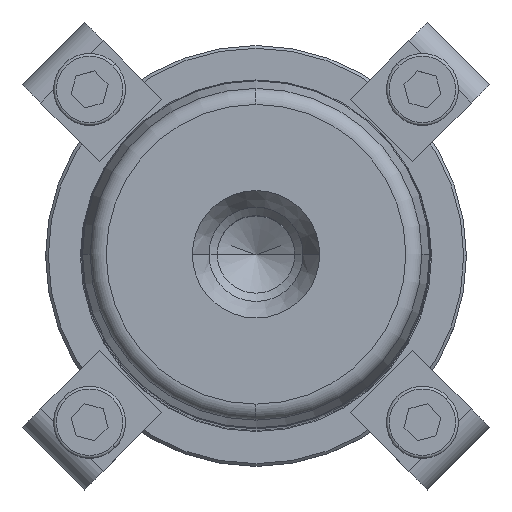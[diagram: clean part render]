
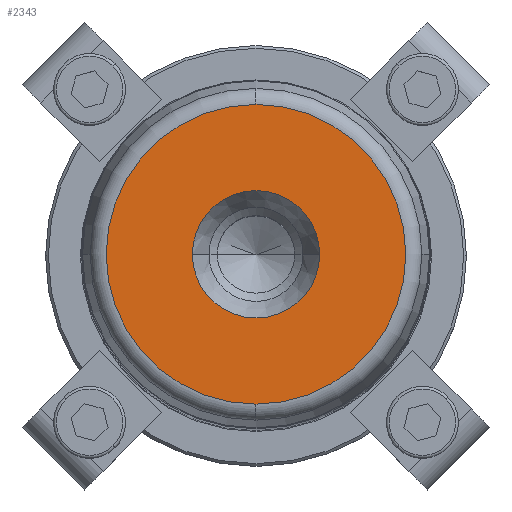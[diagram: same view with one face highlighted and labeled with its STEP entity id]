
A CAD part, top view. The second image highlights one B-rep face of the part: STEP entity #2343.
In plain terms, the highlighted planar face has unit normal (0, 0, 1).
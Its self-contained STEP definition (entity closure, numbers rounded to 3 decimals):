
#431=CARTESIAN_POINT('',(11.5,0.,180.0));
#432=VERTEX_POINT('',#431);
#439=CARTESIAN_POINT('',(-11.5,0.,180.0));
#440=VERTEX_POINT('',#439);
#441=CARTESIAN_POINT('',(0.0,0.,180.0));
#442=DIRECTION('',(0.0,0.0,1.0));
#443=DIRECTION('',(1.0,0.0,0.0));
#444=AXIS2_PLACEMENT_3D('',#441,#442,#443);
#445=CIRCLE('',#444,11.5);
#446=EDGE_CURVE('',#432,#440,#445,.T.);
#463=CARTESIAN_POINT('',(0.0,-27.054,180.0));
#464=VERTEX_POINT('',#463);
#474=CARTESIAN_POINT('',(0.,27.054,180.0));
#475=VERTEX_POINT('',#474);
#476=CARTESIAN_POINT('',(0.0,0.,180.0));
#477=DIRECTION('',(0.0,0.0,1.0));
#478=DIRECTION('',(1.0,0.0,0.0));
#479=AXIS2_PLACEMENT_3D('',#476,#477,#478);
#480=CIRCLE('',#479,27.054);
#481=EDGE_CURVE('',#475,#464,#480,.T.);
#2304=CARTESIAN_POINT('',(27.054,0.,180.0));
#2305=VERTEX_POINT('',#2304);
#2306=CARTESIAN_POINT('',(0.0,0.,180.0));
#2307=DIRECTION('',(0.0,0.0,1.0));
#2308=DIRECTION('',(1.0,0.0,0.0));
#2309=AXIS2_PLACEMENT_3D('',#2306,#2307,#2308);
#2310=CIRCLE('',#2309,27.054);
#2311=EDGE_CURVE('',#2305,#475,#2310,.T.);
#2313=CARTESIAN_POINT('',(0.0,0.,180.0));
#2314=DIRECTION('',(0.0,0.0,1.0));
#2315=DIRECTION('',(1.0,0.0,0.0));
#2316=AXIS2_PLACEMENT_3D('',#2313,#2314,#2315);
#2317=CIRCLE('',#2316,27.054);
#2318=EDGE_CURVE('',#464,#2305,#2317,.T.);
#2323=CARTESIAN_POINT('',(19.277,0.,180.0));
#2324=DIRECTION('',(0.0,0.0,1.0));
#2325=DIRECTION('',(0.0,-1.0,0.0));
#2326=AXIS2_PLACEMENT_3D('',#2323,#2324,#2325);
#2327=PLANE('',#2326);
#2328=ORIENTED_EDGE('',*,*,#2311,.T.);
#2329=ORIENTED_EDGE('',*,*,#481,.T.);
#2330=ORIENTED_EDGE('',*,*,#2318,.T.);
#2331=EDGE_LOOP('',(#2328,#2329,#2330));
#2332=FACE_OUTER_BOUND('',#2331,.T.);
#2333=ORIENTED_EDGE('',*,*,#446,.F.);
#2334=CARTESIAN_POINT('',(0.0,0.,180.0));
#2335=DIRECTION('',(0.0,0.0,1.0));
#2336=DIRECTION('',(1.0,0.0,0.0));
#2337=AXIS2_PLACEMENT_3D('',#2334,#2335,#2336);
#2338=CIRCLE('',#2337,11.5);
#2339=EDGE_CURVE('',#440,#432,#2338,.T.);
#2340=ORIENTED_EDGE('',*,*,#2339,.F.);
#2341=EDGE_LOOP('',(#2333,#2340));
#2342=FACE_BOUND('',#2341,.T.);
#2343=ADVANCED_FACE('',(#2332,#2342),#2327,.T.);
